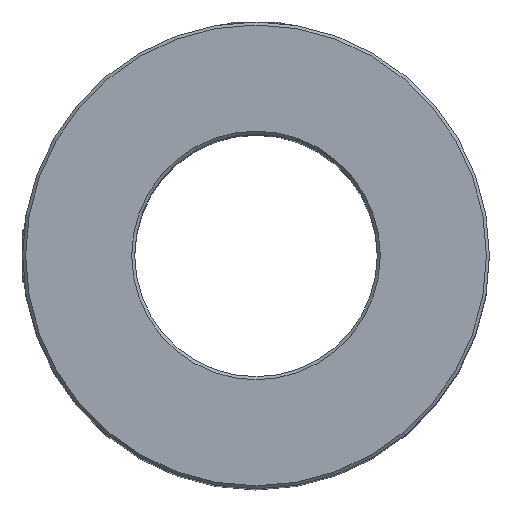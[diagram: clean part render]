
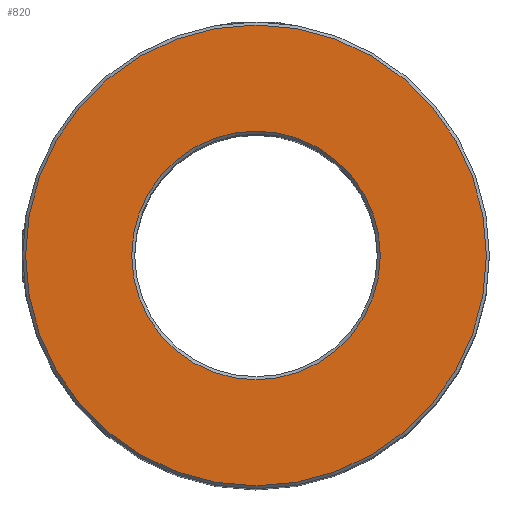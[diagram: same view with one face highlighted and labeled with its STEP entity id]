
A CAD part, top view. The second image highlights one B-rep face of the part: STEP entity #820.
In plain terms, the highlighted planar face has unit normal (0, 0, 1).
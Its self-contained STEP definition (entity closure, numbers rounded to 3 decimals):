
#38 = CARTESIAN_POINT ( 'NONE',  ( 38., 0., 54. ) ) ;
#56 = AXIS2_PLACEMENT_3D ( 'NONE', #3903, #7294, #4677 ) ;
#727 = VERTEX_POINT ( 'NONE', #38 ) ;
#820 = ADVANCED_FACE ( 'NONE', ( #4728, #2612 ), #9014, .T. ) ;
#1174 = DIRECTION ( 'NONE',  ( 1., 0., 0. ) ) ;
#2612 = FACE_OUTER_BOUND ( 'NONE', #6879, .T. ) ;
#2719 = AXIS2_PLACEMENT_3D ( 'NONE', #4091, #8885, #1174 ) ;
#3787 = EDGE_LOOP ( 'NONE', ( #5838 ) ) ;
#3807 = CARTESIAN_POINT ( 'NONE',  ( 0., 0., 54. ) ) ;
#3903 = CARTESIAN_POINT ( 'NONE',  ( 0., 0., 54. ) ) ;
#4000 = CIRCLE ( 'NONE', #56, 38. ) ;
#4091 = CARTESIAN_POINT ( 'NONE',  ( 0., 0., 54. ) ) ;
#4221 = ORIENTED_EDGE ( 'NONE', *, *, #4295, .T. ) ;
#4244 = CARTESIAN_POINT ( 'NONE',  ( 20.5, 0., 54. ) ) ;
#4263 = EDGE_CURVE ( 'NONE', #8492, #8492, #6187, .T. ) ;
#4295 = EDGE_CURVE ( 'NONE', #727, #727, #4000, .T. ) ;
#4357 = DIRECTION ( 'NONE',  ( 1., 0., 0. ) ) ;
#4677 = DIRECTION ( 'NONE',  ( 1., 0., 0. ) ) ;
#4728 = FACE_BOUND ( 'NONE', #3787, .T. ) ;
#5352 = AXIS2_PLACEMENT_3D ( 'NONE', #3807, #7205, #4357 ) ;
#5838 = ORIENTED_EDGE ( 'NONE', *, *, #4263, .T. ) ;
#6187 = CIRCLE ( 'NONE', #5352, 20.5 ) ;
#6879 = EDGE_LOOP ( 'NONE', ( #4221 ) ) ;
#7205 = DIRECTION ( 'NONE',  ( 0., 0., -1. ) ) ;
#7294 = DIRECTION ( 'NONE',  ( 0., 0., 1. ) ) ;
#8492 = VERTEX_POINT ( 'NONE', #4244 ) ;
#8885 = DIRECTION ( 'NONE',  ( 0., 0., 1. ) ) ;
#9014 = PLANE ( 'NONE',  #2719 ) ;
